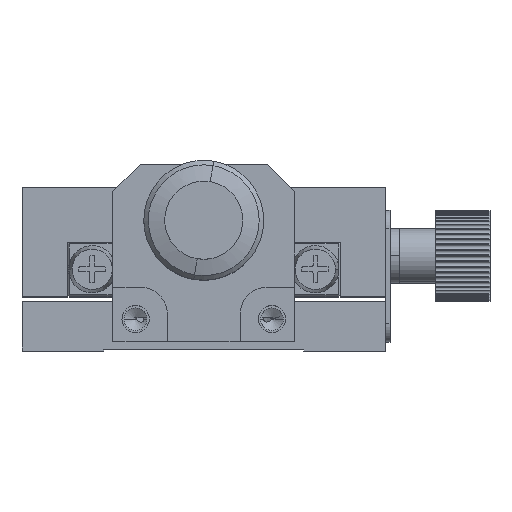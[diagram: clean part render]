
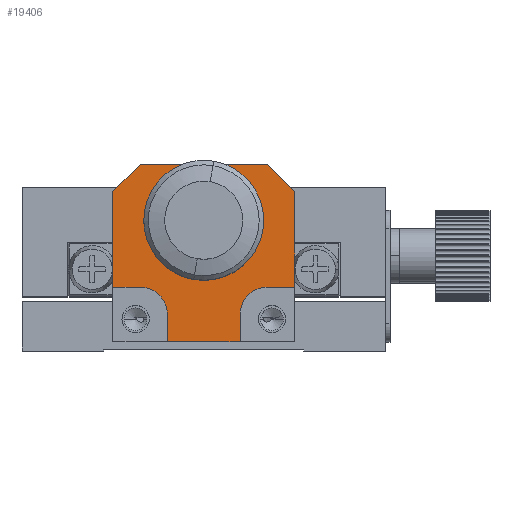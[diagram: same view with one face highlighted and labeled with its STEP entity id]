
A CAD part, top view. The second image highlights one B-rep face of the part: STEP entity #19406.
In plain terms, the highlighted planar face has unit normal (0, 0, 1) as drawn and (0, 0, -1) by its records, which use the part's own axes.
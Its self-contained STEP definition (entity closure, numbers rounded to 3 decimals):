
#173 = CARTESIAN_POINT ( 'NONE',  ( -10., 6., -20. ) ) ;
#212 = VECTOR ( 'NONE', #9906, 1000. ) ;
#592 = CARTESIAN_POINT ( 'NONE',  ( 10., 6., -20. ) ) ;
#716 = EDGE_CURVE ( 'NONE', #15072, #5885, #6837, .T. ) ;
#917 = VECTOR ( 'NONE', #8664, 1000. ) ;
#1140 = CARTESIAN_POINT ( 'NONE',  ( 10., 16.5, -20. ) ) ;
#1221 = CARTESIAN_POINT ( 'NONE',  ( -4., 0., -20. ) ) ;
#1691 = EDGE_CURVE ( 'NONE', #16392, #19097, #14688, .T. ) ;
#2018 = LINE ( 'NONE', #173, #11021 ) ;
#2196 = ORIENTED_EDGE ( 'NONE', *, *, #7679, .F. ) ;
#2267 = DIRECTION ( 'NONE',  ( 0., 0., -1. ) ) ;
#2268 = VECTOR ( 'NONE', #19710, 1000. ) ;
#2544 = DIRECTION ( 'NONE',  ( 0.707, 0.707, 0. ) ) ;
#2781 = EDGE_CURVE ( 'NONE', #18272, #19038, #5178, .T. ) ;
#3024 = DIRECTION ( 'NONE',  ( 1., 0., 0. ) ) ;
#3102 = VECTOR ( 'NONE', #14835, 1000. ) ;
#3168 = ORIENTED_EDGE ( 'NONE', *, *, #2781, .T. ) ;
#3478 = EDGE_CURVE ( 'NONE', #17375, #9332, #12315, .T. ) ;
#3659 = AXIS2_PLACEMENT_3D ( 'NONE', #4349, #9655, #12686 ) ;
#3723 = CARTESIAN_POINT ( 'NONE',  ( 4., 0., -20. ) ) ;
#3973 = VECTOR ( 'NONE', #15052, 1000. ) ;
#4051 = CARTESIAN_POINT ( 'NONE',  ( 7., 3., -20. ) ) ;
#4172 = CIRCLE ( 'NONE', #10159, 3. ) ;
#4186 = CARTESIAN_POINT ( 'NONE',  ( -7., 19.5, -20. ) ) ;
#4349 = CARTESIAN_POINT ( 'NONE',  ( 10., 0., -20. ) ) ;
#4555 = FACE_BOUND ( 'NONE', #13244, .T. ) ;
#4556 = CARTESIAN_POINT ( 'NONE',  ( 10., 0., -20. ) ) ;
#4769 = EDGE_CURVE ( 'NONE', #19038, #19097, #12222, .T. ) ;
#4904 = LINE ( 'NONE', #3723, #917 ) ;
#5159 = EDGE_CURVE ( 'NONE', #16231, #9332, #12467, .T. ) ;
#5178 = LINE ( 'NONE', #11420, #14383 ) ;
#5188 = CIRCLE ( 'NONE', #13583, 3. ) ;
#5265 = DIRECTION ( 'NONE',  ( 1., 0., 0. ) ) ;
#5696 = ORIENTED_EDGE ( 'NONE', *, *, #5159, .F. ) ;
#5885 = VERTEX_POINT ( 'NONE', #11251 ) ;
#6108 = EDGE_CURVE ( 'NONE', #16392, #19463, #7940, .T. ) ;
#6111 = ORIENTED_EDGE ( 'NONE', *, *, #21715, .F. ) ;
#6725 = ORIENTED_EDGE ( 'NONE', *, *, #4769, .T. ) ;
#6837 = CIRCLE ( 'NONE', #20699, 4.75 ) ;
#6946 = VECTOR ( 'NONE', #2544, 1000. ) ;
#7104 = EDGE_CURVE ( 'NONE', #12815, #19463, #21304, .T. ) ;
#7355 = CIRCLE ( 'NONE', #10364, 4.75 ) ;
#7679 = EDGE_CURVE ( 'NONE', #14591, #16231, #4172, .T. ) ;
#7770 = DIRECTION ( 'NONE',  ( 0., -1., 0. ) ) ;
#7940 = LINE ( 'NONE', #18384, #3973 ) ;
#8482 = ORIENTED_EDGE ( 'NONE', *, *, #6108, .T. ) ;
#8569 = DIRECTION ( 'NONE',  ( 0., 0., -1. ) ) ;
#8664 = DIRECTION ( 'NONE',  ( 0., 1., 0. ) ) ;
#9163 = EDGE_CURVE ( 'NONE', #13701, #13834, #5188, .T. ) ;
#9332 = VERTEX_POINT ( 'NONE', #17663 ) ;
#9468 = CARTESIAN_POINT ( 'NONE',  ( -4.75, 13.3, -20. ) ) ;
#9506 = PLANE ( 'NONE',  #3659 ) ;
#9655 = DIRECTION ( 'NONE',  ( 0., 0., 1. ) ) ;
#9821 = EDGE_CURVE ( 'NONE', #17375, #13701, #4904, .T. ) ;
#9906 = DIRECTION ( 'NONE',  ( 0., 1., 0. ) ) ;
#10159 = AXIS2_PLACEMENT_3D ( 'NONE', #12926, #8569, #19077 ) ;
#10364 = AXIS2_PLACEMENT_3D ( 'NONE', #15960, #17583, #10963 ) ;
#10590 = EDGE_LOOP ( 'NONE', ( #11962, #5696, #2196, #19530, #3168, #6725, #13332, #8482, #11077, #14782, #16820, #20903 ) ) ;
#10963 = DIRECTION ( 'NONE',  ( -1., 0., 0. ) ) ;
#11021 = VECTOR ( 'NONE', #5265, 1000. ) ;
#11077 = ORIENTED_EDGE ( 'NONE', *, *, #7104, .F. ) ;
#11251 = CARTESIAN_POINT ( 'NONE',  ( 4.75, 13.3, -20. ) ) ;
#11420 = CARTESIAN_POINT ( 'NONE',  ( -10., 0., -20. ) ) ;
#11913 = VECTOR ( 'NONE', #3024, 1000. ) ;
#11962 = ORIENTED_EDGE ( 'NONE', *, *, #3478, .T. ) ;
#12222 = LINE ( 'NONE', #4186, #6946 ) ;
#12315 = LINE ( 'NONE', #4556, #2268 ) ;
#12388 = CARTESIAN_POINT ( 'NONE',  ( -4., 3., -20. ) ) ;
#12460 = DIRECTION ( 'NONE',  ( 1., 0., 0. ) ) ;
#12467 = LINE ( 'NONE', #1221, #16391 ) ;
#12527 = EDGE_CURVE ( 'NONE', #13834, #12815, #19290, .T. ) ;
#12686 = DIRECTION ( 'NONE',  ( 1., 0., 0. ) ) ;
#12815 = VERTEX_POINT ( 'NONE', #15311 ) ;
#12926 = CARTESIAN_POINT ( 'NONE',  ( -7., 3., -20. ) ) ;
#13005 = ORIENTED_EDGE ( 'NONE', *, *, #716, .F. ) ;
#13244 = EDGE_LOOP ( 'NONE', ( #13005, #6111 ) ) ;
#13259 = DIRECTION ( 'NONE',  ( 0., 1., 0. ) ) ;
#13332 = ORIENTED_EDGE ( 'NONE', *, *, #1691, .F. ) ;
#13492 = CARTESIAN_POINT ( 'NONE',  ( -7., 19.5, -20. ) ) ;
#13583 = AXIS2_PLACEMENT_3D ( 'NONE', #4051, #20826, #12460 ) ;
#13701 = VERTEX_POINT ( 'NONE', #21297 ) ;
#13834 = VERTEX_POINT ( 'NONE', #18370 ) ;
#14062 = DIRECTION ( 'NONE',  ( -1., 0., 0. ) ) ;
#14383 = VECTOR ( 'NONE', #13259, 1000. ) ;
#14425 = EDGE_CURVE ( 'NONE', #18272, #14591, #2018, .T. ) ;
#14531 = CARTESIAN_POINT ( 'NONE',  ( -10., 6., -20. ) ) ;
#14591 = VERTEX_POINT ( 'NONE', #15647 ) ;
#14596 = CARTESIAN_POINT ( 'NONE',  ( 10., 0., -20. ) ) ;
#14638 = CARTESIAN_POINT ( 'NONE',  ( 7., 19.5, -20. ) ) ;
#14688 = LINE ( 'NONE', #16538, #3102 ) ;
#14782 = ORIENTED_EDGE ( 'NONE', *, *, #12527, .F. ) ;
#14835 = DIRECTION ( 'NONE',  ( -1., 0., 0. ) ) ;
#15052 = DIRECTION ( 'NONE',  ( 0.707, -0.707, 0. ) ) ;
#15072 = VERTEX_POINT ( 'NONE', #9468 ) ;
#15311 = CARTESIAN_POINT ( 'NONE',  ( 10., 6., -20. ) ) ;
#15647 = CARTESIAN_POINT ( 'NONE',  ( -7., 6., -20. ) ) ;
#15960 = CARTESIAN_POINT ( 'NONE',  ( 0., 13.3, -20. ) ) ;
#16231 = VERTEX_POINT ( 'NONE', #12388 ) ;
#16391 = VECTOR ( 'NONE', #7770, 1000. ) ;
#16392 = VERTEX_POINT ( 'NONE', #14638 ) ;
#16538 = CARTESIAN_POINT ( 'NONE',  ( 10., 19.5, -20. ) ) ;
#16820 = ORIENTED_EDGE ( 'NONE', *, *, #9163, .F. ) ;
#17375 = VERTEX_POINT ( 'NONE', #18737 ) ;
#17583 = DIRECTION ( 'NONE',  ( 0., 0., -1. ) ) ;
#17663 = CARTESIAN_POINT ( 'NONE',  ( -4., 0., -20. ) ) ;
#18272 = VERTEX_POINT ( 'NONE', #14531 ) ;
#18370 = CARTESIAN_POINT ( 'NONE',  ( 7., 6., -20. ) ) ;
#18384 = CARTESIAN_POINT ( 'NONE',  ( 10., 16.5, -20. ) ) ;
#18421 = CARTESIAN_POINT ( 'NONE',  ( -10., 16.5, -20. ) ) ;
#18737 = CARTESIAN_POINT ( 'NONE',  ( 4., 0., -20. ) ) ;
#19038 = VERTEX_POINT ( 'NONE', #18421 ) ;
#19077 = DIRECTION ( 'NONE',  ( -1., 0., 0. ) ) ;
#19097 = VERTEX_POINT ( 'NONE', #13492 ) ;
#19232 = CARTESIAN_POINT ( 'NONE',  ( 0., 13.3, -20. ) ) ;
#19290 = LINE ( 'NONE', #592, #11913 ) ;
#19406 = ADVANCED_FACE ( 'NONE', ( #4555, #21661 ), #9506, .F. ) ;
#19463 = VERTEX_POINT ( 'NONE', #1140 ) ;
#19530 = ORIENTED_EDGE ( 'NONE', *, *, #14425, .F. ) ;
#19710 = DIRECTION ( 'NONE',  ( -1., 0., 0. ) ) ;
#20699 = AXIS2_PLACEMENT_3D ( 'NONE', #19232, #2267, #14062 ) ;
#20826 = DIRECTION ( 'NONE',  ( 0., 0., -1. ) ) ;
#20903 = ORIENTED_EDGE ( 'NONE', *, *, #9821, .F. ) ;
#21297 = CARTESIAN_POINT ( 'NONE',  ( 4., 3., -20. ) ) ;
#21304 = LINE ( 'NONE', #14596, #212 ) ;
#21661 = FACE_OUTER_BOUND ( 'NONE', #10590, .T. ) ;
#21715 = EDGE_CURVE ( 'NONE', #5885, #15072, #7355, .T. ) ;
